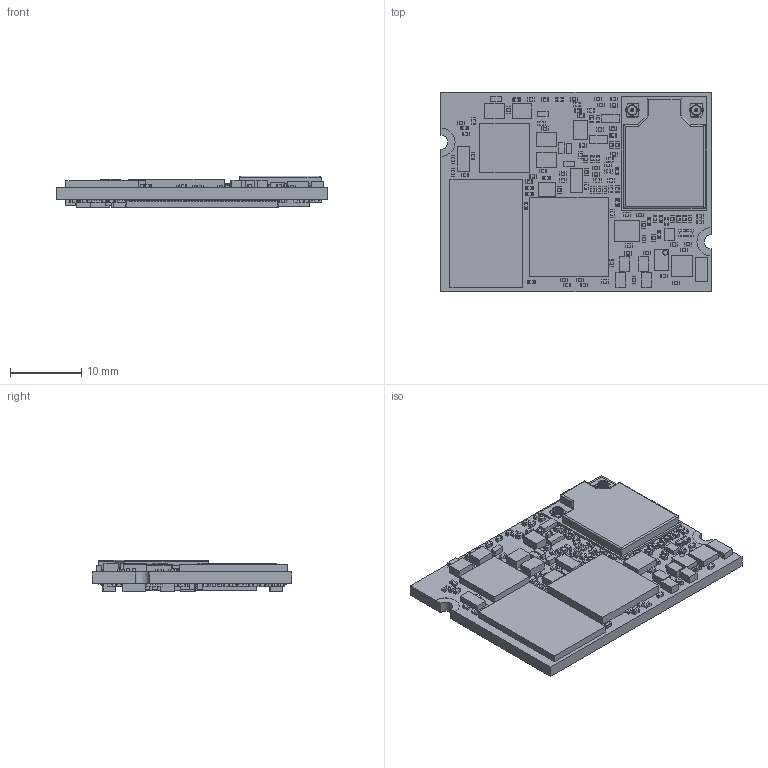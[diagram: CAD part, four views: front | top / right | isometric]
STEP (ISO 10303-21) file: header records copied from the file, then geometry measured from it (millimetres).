
FILE_DESCRIPTION (( 'STEP AP203' ), '1' );
FILE_NAME ('UCM-iMX93 3D model.step', '2023-05-28T10:21:17', ( '' ), ( '' ), 'SwSTEP 2.0', 'SolidWorks 2015', '' );
FILE_SCHEMA (( 'CONFIG_CONTROL_DESIGN' ));
Length unit declared in the file: millimetre
Products named in the file (31): 161C10021S-RC0402FR-0710K0; 131D31540S_SOT-563-6_131D31540S; 141B25603I_OSC3225_141B25603I; 106D90000S_SC70_106D90000S; 111S31000S_MO-229VCED-21; 163K04000S_RESNET8P0805-compulab_163K04000S; 116A00570S_MO-220VJJE_116A00570S; 106C20320S_SC70_106C20320S; 151B10400S-Samsung_-_CL05A104KO5NNNC; 123M0R603S_QFN7x7-56-4_7x4_7_123M0R603S; 161D00005S_RC0603_161D00005S; 141B24605I_OSC3225_141B24605I; 116B00550S-IC_Periph._WiFi__M.2_1216_AzureWave_AW-CM276NF; 111M33201S_MO-276BA_111M33201S; 115A01148S_BGA-306-11x11_115A01148S; 106C20000S_SC_70-MAA05A_106C20000S; 182E10004S-Conn._B2B_2x50 cont._P0.4mm_Plug; 116B00360S_QFN3X3-16-1_116B00360S; UCM-iMX93 3D model; 147A4R704S_Ind2_5x2x1_2_147A4R704S; 111L53000S_BGA-200-08-10x15_111L53000S; 151B22610S_RC0603_151B22610S; 117A63200S_SOT23-5_117A63200S; 163K04103S_Walsin-RESNET8P0805; RC0402FR-072K15L; 151C10500S_RC0402_SAMSUNG; 141B32301I_XTAL3_2x1_5_141B32301I; 163K04472S_RESNET8P0805-compulab_163K04472S; 106N20190S_SC70-6_106N20190S; 147AR4700S_Ind2_5x2x1_2_147AR4700S; UCM-iMX93_board
Assembly tree (323 placements, depth 2):
  UCM-iMX93 3D model
    UCM-iMX93_board
    106C20000S_SC_70-MAA05A_106C20000S
    106C20320S_SC70_106C20320S
    106D90000S_SC70_106D90000S  x4
    106N20190S_SC70-6_106N20190S
    111L53000S_BGA-200-08-10x15_111L53000S
    111M33201S_MO-276BA_111M33201S
    111S31000S_MO-229VCED-21
    115A01148S_BGA-306-11x11_115A01148S
    116A00570S_MO-220VJJE_116A00570S
    116B00360S_QFN3X3-16-1_116B00360S
    116B00550S-IC_Periph._WiFi__M.2_1216_AzureWave_AW-CM276NF
    117A63200S_SOT23-5_117A63200S
    123M0R603S_QFN7x7-56-4_7x4_7_123M0R603S
    131D31540S_SOT-563-6_131D31540S
    141B24605I_OSC3225_141B24605I
    141B25603I_OSC3225_141B25603I
    141B32301I_XTAL3_2x1_5_141B32301I  x3
    147A4R704S_Ind2_5x2x1_2_147A4R704S
    147AR4700S_Ind2_5x2x1_2_147AR4700S  x6
    151B10400S-Samsung_-_CL05A104KO5NNNC  x49
    RC0402FR-072K15L  x124
    151B22610S_RC0603_151B22610S  x9
    151C10500S_RC0402_SAMSUNG  x44
    161C10021S-RC0402FR-0710K0  x58
    161D00005S_RC0603_161D00005S  x3
    163K04000S_RESNET8P0805-compulab_163K04000S  x2
    163K04103S_Walsin-RESNET8P0805
    163K04472S_RESNET8P0805-compulab_163K04472S
    182E10004S-Conn._B2B_2x50 cont._P0.4mm_Plug  x2
Bounding box: 38 x 28 x 4.49 mm (x, y, z)
Volume: 2811.2 mm3; surface area: 6719.7 mm2
Topology: 959 solids, 1331 shells, 20366 faces, 46092 edges, 28304 vertices
Faces by surface type: plane 10388, cylinder 7546, sphere 2416, cone 16
Full cylindrical faces by diameter (mm): 0.2 x2, 0.45 x2, 0.7 x1, 1.26 x2, 1.4 x2, 1.5 x4
Entity records: 117664 total; most frequent: CARTESIAN_POINT 18847, DIRECTION 18693, ORIENTED_EDGE 18078, EDGE_CURVE 9043, LINE 6645, VECTOR 6645, AXIS2_PLACEMENT_3D 6024, VERTEX_POINT 5986
